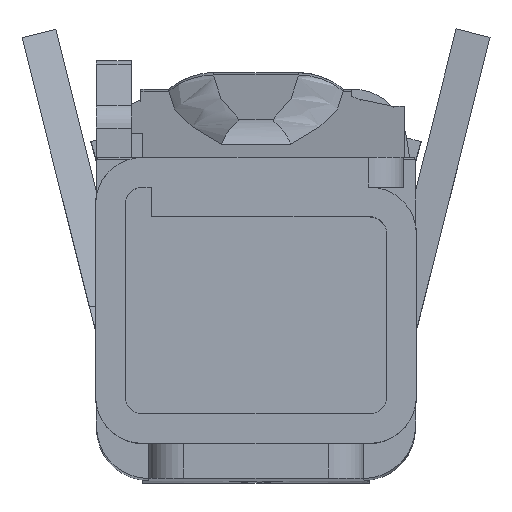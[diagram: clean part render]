
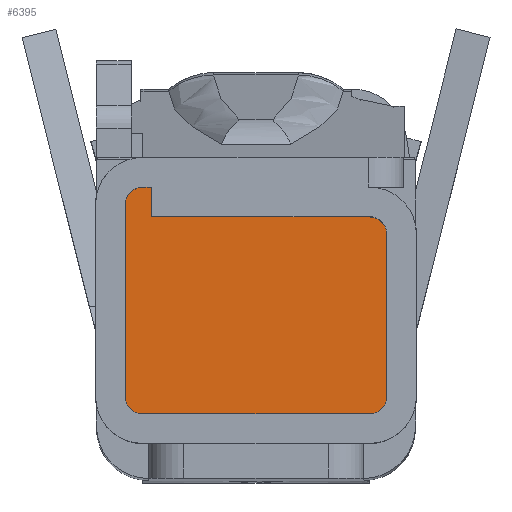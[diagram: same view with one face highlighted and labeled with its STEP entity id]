
A CAD part, top view. The second image highlights one B-rep face of the part: STEP entity #6395.
In plain terms, the highlighted planar face has unit normal (0, 0, 1).
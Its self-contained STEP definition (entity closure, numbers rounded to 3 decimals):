
#218=DIRECTION('',(0.,-1.,0.));
#219=VECTOR('',#218,0.17);
#220=CARTESIAN_POINT('',(-0.6,0.735,-0.8));
#221=LINE('',#220,#219);
#277=CARTESIAN_POINT('',(0.65,-0.465,-0.8));
#278=DIRECTION('',(0.,0.,-1.));
#279=DIRECTION('',(1.,0.,0.));
#280=AXIS2_PLACEMENT_3D('',#277,#278,#279);
#282=CARTESIAN_POINT('',(-0.65,-0.465,-0.8));
#283=DIRECTION('',(0.,0.,-1.));
#284=DIRECTION('',(0.,-1.,0.));
#285=AXIS2_PLACEMENT_3D('',#282,#283,#284);
#287=CARTESIAN_POINT('',(-0.65,0.635,-0.8));
#288=DIRECTION('',(0.,0.,-1.));
#289=DIRECTION('',(-1.,0.,0.));
#290=AXIS2_PLACEMENT_3D('',#287,#288,#289);
#292=CARTESIAN_POINT('',(0.65,0.465,-0.8));
#293=DIRECTION('',(0.,0.,-1.));
#294=DIRECTION('',(0.,1.,0.));
#295=AXIS2_PLACEMENT_3D('',#292,#293,#294);
#5177=DIRECTION('',(0.,-1.,0.));
#5178=VECTOR('',#5177,0.93);
#5179=CARTESIAN_POINT('',(0.75,0.465,-0.8));
#5180=LINE('',#5179,#5178);
#5189=DIRECTION('',(1.,0.,0.));
#5190=VECTOR('',#5189,1.25);
#5191=CARTESIAN_POINT('',(-0.6,0.565,-0.8));
#5192=LINE('',#5191,#5190);
#5197=DIRECTION('',(-1.,0.,0.));
#5198=VECTOR('',#5197,1.3);
#5199=CARTESIAN_POINT('',(0.65,-0.565,-0.8));
#5200=LINE('',#5199,#5198);
#5209=DIRECTION('',(0.,1.,0.));
#5210=VECTOR('',#5209,1.1);
#5211=CARTESIAN_POINT('',(-0.75,-0.465,-0.8));
#5212=LINE('',#5211,#5210);
#5221=DIRECTION('',(1.,0.,0.));
#5222=VECTOR('',#5221,0.05);
#5223=CARTESIAN_POINT('',(-0.65,0.735,-0.8));
#5224=LINE('',#5223,#5222);
#5291=CARTESIAN_POINT('',(0.75,0.465,-0.8));
#5292=CARTESIAN_POINT('',(0.75,-0.465,-0.8));
#5293=VERTEX_POINT('',#5291);
#5294=VERTEX_POINT('',#5292);
#5295=CARTESIAN_POINT('',(-0.75,-0.465,-0.8));
#5296=CARTESIAN_POINT('',(-0.75,0.635,-0.8));
#5297=VERTEX_POINT('',#5295);
#5298=VERTEX_POINT('',#5296);
#5639=CARTESIAN_POINT('',(-0.6,0.735,-0.8));
#5640=CARTESIAN_POINT('',(-0.6,0.565,-0.8));
#5641=VERTEX_POINT('',#5639);
#5642=VERTEX_POINT('',#5640);
#5643=CARTESIAN_POINT('',(0.65,0.565,-0.8));
#5644=VERTEX_POINT('',#5643);
#5645=CARTESIAN_POINT('',(0.65,-0.565,-0.8));
#5646=CARTESIAN_POINT('',(-0.65,-0.565,-0.8));
#5647=VERTEX_POINT('',#5645);
#5648=VERTEX_POINT('',#5646);
#5649=CARTESIAN_POINT('',(-0.65,0.735,-0.8));
#5650=VERTEX_POINT('',#5649);
#6369=CARTESIAN_POINT('',(0.,0.,-0.8));
#6370=DIRECTION('',(0.,0.,1.));
#6371=DIRECTION('',(1.,0.,0.));
#6372=AXIS2_PLACEMENT_3D('',#6369,#6370,#6371);
#6373=PLANE('',#6372);
#6375=ORIENTED_EDGE('',*,*,#6374,.T.);
#6377=ORIENTED_EDGE('',*,*,#6376,.T.);
#6379=ORIENTED_EDGE('',*,*,#6378,.T.);
#6381=ORIENTED_EDGE('',*,*,#6380,.T.);
#6383=ORIENTED_EDGE('',*,*,#6382,.T.);
#6385=ORIENTED_EDGE('',*,*,#6384,.T.);
#6386=ORIENTED_EDGE('',*,*,#6277,.T.);
#6388=ORIENTED_EDGE('',*,*,#6387,.T.);
#6390=ORIENTED_EDGE('',*,*,#6389,.T.);
#6392=ORIENTED_EDGE('',*,*,#6391,.T.);
#6393=EDGE_LOOP('',(#6375,#6377,#6379,#6381,#6383,#6385,#6386,#6388,#6390,
#6392));
#6394=FACE_OUTER_BOUND('',#6393,.F.);
#281=CIRCLE('',#280,0.1);
#286=CIRCLE('',#285,0.1);
#291=CIRCLE('',#290,0.1);
#296=CIRCLE('',#295,0.1);
#6277=EDGE_CURVE('',#5641,#5642,#221,.T.);
#6374=EDGE_CURVE('',#5294,#5647,#281,.T.);
#6376=EDGE_CURVE('',#5647,#5648,#5200,.T.);
#6378=EDGE_CURVE('',#5648,#5297,#286,.T.);
#6380=EDGE_CURVE('',#5297,#5298,#5212,.T.);
#6382=EDGE_CURVE('',#5298,#5650,#291,.T.);
#6384=EDGE_CURVE('',#5650,#5641,#5224,.T.);
#6387=EDGE_CURVE('',#5642,#5644,#5192,.T.);
#6389=EDGE_CURVE('',#5644,#5293,#296,.T.);
#6391=EDGE_CURVE('',#5293,#5294,#5180,.T.);
#6395=ADVANCED_FACE('',(#6394),#6373,.T.);
